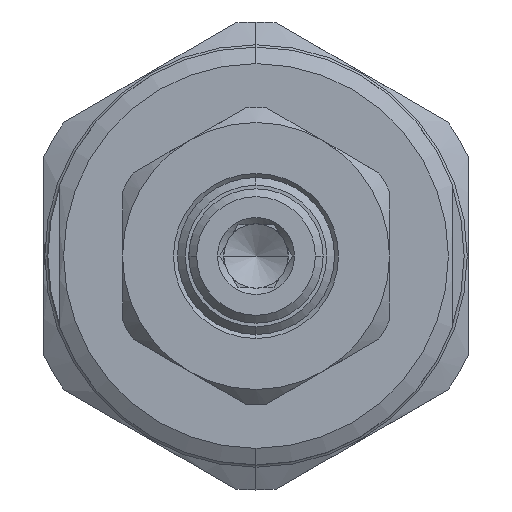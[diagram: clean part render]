
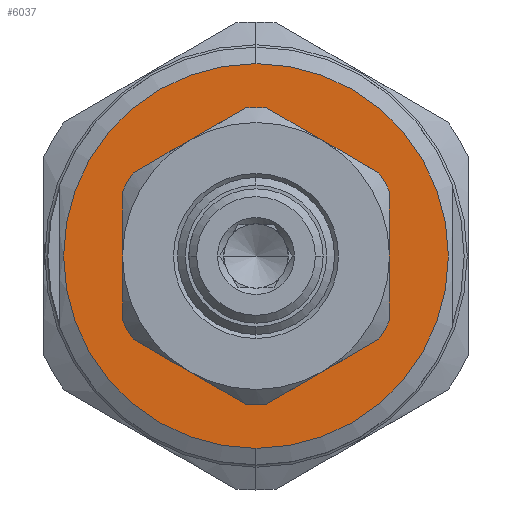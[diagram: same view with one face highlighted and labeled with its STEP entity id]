
A CAD part, left-side view. The second image highlights one B-rep face of the part: STEP entity #6037.
In plain terms, the highlighted planar face has unit normal (-1, 0, 0).
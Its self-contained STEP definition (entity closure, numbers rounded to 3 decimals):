
#254 = CARTESIAN_POINT ( 'NONE',  ( -5., 0., 0. ) ) ;
#275 = ORIENTED_EDGE ( 'NONE', *, *, #749, .F. ) ;
#279 = CARTESIAN_POINT ( 'NONE',  ( -5., 4.25, -7.361 ) ) ;
#319 = FACE_BOUND ( 'NONE', #15633, .T. ) ;
#426 = CARTESIAN_POINT ( 'NONE',  ( -5., 0., -12.25 ) ) ;
#458 = EDGE_CURVE ( 'NONE', #12860, #2280, #13258, .T. ) ;
#749 = EDGE_CURVE ( 'NONE', #15917, #7012, #8913, .T. ) ;
#752 = CARTESIAN_POINT ( 'NONE',  ( -5., 0., 0. ) ) ;
#941 = AXIS2_PLACEMENT_3D ( 'NONE', #5039, #13803, #6303 ) ;
#1512 = DIRECTION ( 'NONE',  ( 0., -1., 0. ) ) ;
#1614 = ORIENTED_EDGE ( 'NONE', *, *, #5133, .F. ) ;
#1620 = AXIS2_PLACEMENT_3D ( 'NONE', #254, #7748, #1512 ) ;
#1639 = CARTESIAN_POINT ( 'NONE',  ( -5., 0., 0. ) ) ;
#2009 = DIRECTION ( 'NONE',  ( 0., -1., 0. ) ) ;
#2089 = AXIS2_PLACEMENT_3D ( 'NONE', #10907, #3384, #12148 ) ;
#2243 = DIRECTION ( 'NONE',  ( -1., 0., 0. ) ) ;
#2280 = VERTEX_POINT ( 'NONE', #6640 ) ;
#2921 = DIRECTION ( 'NONE',  ( 0., 0., 1. ) ) ;
#3193 = CARTESIAN_POINT ( 'NONE',  ( -5., 0., 0. ) ) ;
#3384 = DIRECTION ( 'NONE',  ( -1., 0., 0. ) ) ;
#3632 = FACE_OUTER_BOUND ( 'NONE', #10366, .T. ) ;
#4029 = CARTESIAN_POINT ( 'NONE',  ( -5., -12.25, 0. ) ) ;
#4975 = CIRCLE ( 'NONE', #5900, 12.25 ) ;
#5039 = CARTESIAN_POINT ( 'NONE',  ( -5., 0., 0. ) ) ;
#5133 = EDGE_CURVE ( 'NONE', #7012, #12860, #15948, .T. ) ;
#5273 = DIRECTION ( 'NONE',  ( 0., 0., -1. ) ) ;
#5301 = CIRCLE ( 'NONE', #8098, 12.25 ) ;
#5449 = CARTESIAN_POINT ( 'NONE',  ( -5., 0., 0. ) ) ;
#5476 = VERTEX_POINT ( 'NONE', #426 ) ;
#5496 = VERTEX_POINT ( 'NONE', #6689 ) ;
#5900 = AXIS2_PLACEMENT_3D ( 'NONE', #5449, #14222, #6701 ) ;
#6037 = ADVANCED_FACE ( 'NONE', ( #3632, #319 ), #7703, .T. ) ;
#6282 = CARTESIAN_POINT ( 'NONE',  ( -5., 8.5, 0. ) ) ;
#6303 = DIRECTION ( 'NONE',  ( 0., -1., 0. ) ) ;
#6487 = CARTESIAN_POINT ( 'NONE',  ( -5., -8.5, 0. ) ) ;
#6640 = CARTESIAN_POINT ( 'NONE',  ( -5., -4.25, -7.361 ) ) ;
#6689 = CARTESIAN_POINT ( 'NONE',  ( -5., -4.25, 7.361 ) ) ;
#6701 = DIRECTION ( 'NONE',  ( 0., 0., 1. ) ) ;
#7012 = VERTEX_POINT ( 'NONE', #6282 ) ;
#7143 = EDGE_CURVE ( 'NONE', #9109, #5476, #5301, .T. ) ;
#7624 = VERTEX_POINT ( 'NONE', #6487 ) ;
#7703 = PLANE ( 'NONE',  #15626 ) ;
#7748 = DIRECTION ( 'NONE',  ( -1., 0., 0. ) ) ;
#7777 = CARTESIAN_POINT ( 'NONE',  ( -5., 4.25, 7.361 ) ) ;
#7817 = CIRCLE ( 'NONE', #2089, 8.5 ) ;
#8098 = AXIS2_PLACEMENT_3D ( 'NONE', #1639, #10402, #2921 ) ;
#8913 = CIRCLE ( 'NONE', #11911, 8.5 ) ;
#9109 = VERTEX_POINT ( 'NONE', #10573 ) ;
#9421 = EDGE_CURVE ( 'NONE', #7624, #5496, #7817, .T. ) ;
#9425 = DIRECTION ( 'NONE',  ( 0., -1., 0. ) ) ;
#9500 = DIRECTION ( 'NONE',  ( -1., 0., 0. ) ) ;
#9739 = CARTESIAN_POINT ( 'NONE',  ( -5., 0., 0. ) ) ;
#10366 = EDGE_LOOP ( 'NONE', ( #11771, #12784 ) ) ;
#10402 = DIRECTION ( 'NONE',  ( 1., 0., 0. ) ) ;
#10573 = CARTESIAN_POINT ( 'NONE',  ( -5., 0., 12.25 ) ) ;
#10701 = DIRECTION ( 'NONE',  ( -1., 0., 0. ) ) ;
#10907 = CARTESIAN_POINT ( 'NONE',  ( -5., 0., 0. ) ) ;
#10949 = CIRCLE ( 'NONE', #14189, 8.5 ) ;
#11013 = DIRECTION ( 'NONE',  ( 0., -1., 0. ) ) ;
#11111 = CIRCLE ( 'NONE', #12996, 8.5 ) ;
#11534 = ORIENTED_EDGE ( 'NONE', *, *, #12161, .F. ) ;
#11771 = ORIENTED_EDGE ( 'NONE', *, *, #7143, .F. ) ;
#11911 = AXIS2_PLACEMENT_3D ( 'NONE', #3193, #10701, #9425 ) ;
#12148 = DIRECTION ( 'NONE',  ( 0., -1., 0. ) ) ;
#12161 = EDGE_CURVE ( 'NONE', #5496, #15917, #10949, .T. ) ;
#12784 = ORIENTED_EDGE ( 'NONE', *, *, #12907, .F. ) ;
#12815 = DIRECTION ( 'NONE',  ( -1., 0., 0. ) ) ;
#12860 = VERTEX_POINT ( 'NONE', #279 ) ;
#12907 = EDGE_CURVE ( 'NONE', #5476, #9109, #4975, .T. ) ;
#12996 = AXIS2_PLACEMENT_3D ( 'NONE', #752, #9500, #2009 ) ;
#13212 = ORIENTED_EDGE ( 'NONE', *, *, #9421, .F. ) ;
#13249 = ORIENTED_EDGE ( 'NONE', *, *, #458, .F. ) ;
#13258 = CIRCLE ( 'NONE', #1620, 8.5 ) ;
#13803 = DIRECTION ( 'NONE',  ( -1., 0., 0. ) ) ;
#14189 = AXIS2_PLACEMENT_3D ( 'NONE', #9739, #2243, #11013 ) ;
#14222 = DIRECTION ( 'NONE',  ( 1., 0., 0. ) ) ;
#15010 = ORIENTED_EDGE ( 'NONE', *, *, #15223, .F. ) ;
#15223 = EDGE_CURVE ( 'NONE', #2280, #7624, #11111, .T. ) ;
#15626 = AXIS2_PLACEMENT_3D ( 'NONE', #4029, #12815, #5273 ) ;
#15633 = EDGE_LOOP ( 'NONE', ( #1614, #275, #11534, #13212, #15010, #13249 ) ) ;
#15917 = VERTEX_POINT ( 'NONE', #7777 ) ;
#15948 = CIRCLE ( 'NONE', #941, 8.5 ) ;
